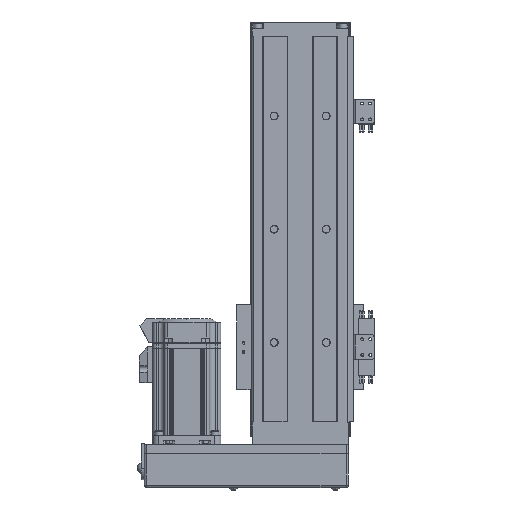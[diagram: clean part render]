
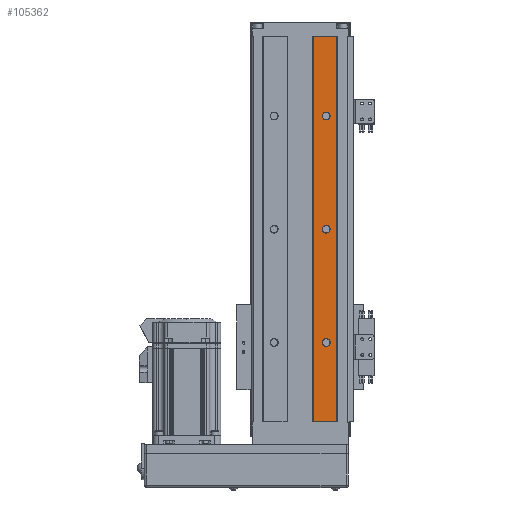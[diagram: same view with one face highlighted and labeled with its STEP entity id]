
A CAD part, front view. The second image highlights one B-rep face of the part: STEP entity #105362.
In plain terms, the highlighted planar face has unit normal (0, -1, 0).
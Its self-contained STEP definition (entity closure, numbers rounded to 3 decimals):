
#1024 = CARTESIAN_POINT ( 'NONE',  ( 23., 0., 170. ) ) ;
#4617 = CARTESIAN_POINT ( 'NONE',  ( 23., 0., 73.5 ) ) ;
#4879 = CARTESIAN_POINT ( 'NONE',  ( 32.5, 0., 0. ) ) ;
#5100 = EDGE_CURVE ( 'NONE', #20776, #85178, #64876, .T. ) ;
#9705 = ORIENTED_EDGE ( 'NONE', *, *, #28110, .T. ) ;
#10612 = CARTESIAN_POINT ( 'NONE',  ( 11.5, 0., 340. ) ) ;
#11366 = CARTESIAN_POINT ( 'NONE',  ( 23., 0., 166.5 ) ) ;
#12077 = DIRECTION ( 'NONE',  ( 0., 1., 0. ) ) ;
#12980 = CARTESIAN_POINT ( 'NONE',  ( 43., 0., 340. ) ) ;
#13453 = PLANE ( 'NONE',  #122352 ) ;
#14081 = EDGE_LOOP ( 'NONE', ( #116109, #68740 ) ) ;
#14997 = AXIS2_PLACEMENT_3D ( 'NONE', #1024, #12077, #66975 ) ;
#16585 = VECTOR ( 'NONE', #43822, 1000. ) ;
#17308 = DIRECTION ( 'NONE',  ( 0., 1., 0. ) ) ;
#19376 = FACE_BOUND ( 'NONE', #69372, .T. ) ;
#19855 = VERTEX_POINT ( 'NONE', #4617 ) ;
#20776 = VERTEX_POINT ( 'NONE', #137611 ) ;
#21133 = DIRECTION ( 'NONE',  ( -1., 0., 0. ) ) ;
#21195 = EDGE_CURVE ( 'NONE', #46774, #49495, #110713, .T. ) ;
#23573 = CARTESIAN_POINT ( 'NONE',  ( 23., 0., 66.5 ) ) ;
#24431 = AXIS2_PLACEMENT_3D ( 'NONE', #94216, #17308, #50520 ) ;
#28110 = EDGE_CURVE ( 'NONE', #19855, #96396, #36945, .T. ) ;
#31743 = CARTESIAN_POINT ( 'NONE',  ( 43., 0., 340. ) ) ;
#31912 = VECTOR ( 'NONE', #45499, 1000. ) ;
#35980 = CARTESIAN_POINT ( 'NONE',  ( 23., 0., 173.5 ) ) ;
#36496 = EDGE_CURVE ( 'NONE', #96396, #19855, #131661, .T. ) ;
#36945 = CIRCLE ( 'NONE', #108590, 3.5 ) ;
#38671 = AXIS2_PLACEMENT_3D ( 'NONE', #96201, #39073, #83398 ) ;
#39073 = DIRECTION ( 'NONE',  ( 0., 1., 0. ) ) ;
#39216 = VECTOR ( 'NONE', #21133, 1000. ) ;
#40966 = CARTESIAN_POINT ( 'NONE',  ( 23., 0., 170. ) ) ;
#43822 = DIRECTION ( 'NONE',  ( 0., 0., 1. ) ) ;
#44221 = ORIENTED_EDGE ( 'NONE', *, *, #21195, .F. ) ;
#45499 = DIRECTION ( 'NONE',  ( -1., 0., 0. ) ) ;
#46774 = VERTEX_POINT ( 'NONE', #135143 ) ;
#49495 = VERTEX_POINT ( 'NONE', #4879 ) ;
#50138 = CARTESIAN_POINT ( 'NONE',  ( 23., 0., 266.5 ) ) ;
#50520 = DIRECTION ( 'NONE',  ( 0., 0., -1. ) ) ;
#56583 = CARTESIAN_POINT ( 'NONE',  ( 23., 0., 270. ) ) ;
#57638 = VERTEX_POINT ( 'NONE', #92944 ) ;
#59416 = CARTESIAN_POINT ( 'NONE',  ( 32.5, 0., 340. ) ) ;
#64172 = AXIS2_PLACEMENT_3D ( 'NONE', #56583, #99766, #89239 ) ;
#64876 = LINE ( 'NONE', #10612, #16585 ) ;
#66884 = LINE ( 'NONE', #31743, #39216 ) ;
#66975 = DIRECTION ( 'NONE',  ( 0., 0., -1. ) ) ;
#68114 = EDGE_CURVE ( 'NONE', #76110, #74493, #109554, .T. ) ;
#68740 = ORIENTED_EDGE ( 'NONE', *, *, #99186, .T. ) ;
#68931 = CIRCLE ( 'NONE', #38671, 3.5 ) ;
#69372 = EDGE_LOOP ( 'NONE', ( #95037, #9705 ) ) ;
#72496 = ORIENTED_EDGE ( 'NONE', *, *, #114119, .F. ) ;
#74493 = VERTEX_POINT ( 'NONE', #35980 ) ;
#76046 = EDGE_LOOP ( 'NONE', ( #117102, #111518 ) ) ;
#76110 = VERTEX_POINT ( 'NONE', #11366 ) ;
#82207 = DIRECTION ( 'NONE',  ( 0., 0., -1. ) ) ;
#83398 = DIRECTION ( 'NONE',  ( 0., 0., -1. ) ) ;
#84152 = CIRCLE ( 'NONE', #139766, 3.5 ) ;
#85083 = EDGE_CURVE ( 'NONE', #122528, #57638, #113233, .T. ) ;
#85178 = VERTEX_POINT ( 'NONE', #87847 ) ;
#87847 = CARTESIAN_POINT ( 'NONE',  ( 11.5, 0., 340. ) ) ;
#89239 = DIRECTION ( 'NONE',  ( 0., 0., -1. ) ) ;
#89389 = ORIENTED_EDGE ( 'NONE', *, *, #134576, .T. ) ;
#89902 = DIRECTION ( 'NONE',  ( 0., 0., -1. ) ) ;
#92828 = EDGE_LOOP ( 'NONE', ( #72496, #44221, #89389, #127495 ) ) ;
#92944 = CARTESIAN_POINT ( 'NONE',  ( 23., 0., 273.5 ) ) ;
#94216 = CARTESIAN_POINT ( 'NONE',  ( 23., 0., 70. ) ) ;
#95037 = ORIENTED_EDGE ( 'NONE', *, *, #36496, .T. ) ;
#95094 = DIRECTION ( 'NONE',  ( 0., 1., 0. ) ) ;
#96201 = CARTESIAN_POINT ( 'NONE',  ( 23., 0., 270. ) ) ;
#96396 = VERTEX_POINT ( 'NONE', #23573 ) ;
#99186 = EDGE_CURVE ( 'NONE', #74493, #76110, #84152, .T. ) ;
#99766 = DIRECTION ( 'NONE',  ( 0., 1., 0. ) ) ;
#100454 = VECTOR ( 'NONE', #126418, 1000. ) ;
#105362 = ADVANCED_FACE ( 'NONE', ( #120760, #117299, #122407, #19376 ), #13453, .T. ) ;
#107513 = LINE ( 'NONE', #125512, #31912 ) ;
#108590 = AXIS2_PLACEMENT_3D ( 'NONE', #115120, #95094, #82207 ) ;
#109554 = CIRCLE ( 'NONE', #14997, 3.5 ) ;
#110713 = LINE ( 'NONE', #59416, #100454 ) ;
#111518 = ORIENTED_EDGE ( 'NONE', *, *, #133996, .T. ) ;
#112765 = DIRECTION ( 'NONE',  ( 0., -1., 0. ) ) ;
#113233 = CIRCLE ( 'NONE', #64172, 3.5 ) ;
#114119 = EDGE_CURVE ( 'NONE', #49495, #20776, #107513, .T. ) ;
#115120 = CARTESIAN_POINT ( 'NONE',  ( 23., 0., 70. ) ) ;
#116109 = ORIENTED_EDGE ( 'NONE', *, *, #68114, .T. ) ;
#117102 = ORIENTED_EDGE ( 'NONE', *, *, #85083, .T. ) ;
#117299 = FACE_BOUND ( 'NONE', #76046, .T. ) ;
#117696 = DIRECTION ( 'NONE',  ( 0., 1., 0. ) ) ;
#120760 = FACE_OUTER_BOUND ( 'NONE', #92828, .T. ) ;
#122352 = AXIS2_PLACEMENT_3D ( 'NONE', #12980, #112765, #89902 ) ;
#122407 = FACE_BOUND ( 'NONE', #14081, .T. ) ;
#122528 = VERTEX_POINT ( 'NONE', #50138 ) ;
#125512 = CARTESIAN_POINT ( 'NONE',  ( 43., 0., 0. ) ) ;
#126418 = DIRECTION ( 'NONE',  ( 0., 0., -1. ) ) ;
#127495 = ORIENTED_EDGE ( 'NONE', *, *, #5100, .F. ) ;
#127756 = DIRECTION ( 'NONE',  ( 0., 0., -1. ) ) ;
#131661 = CIRCLE ( 'NONE', #24431, 3.5 ) ;
#133996 = EDGE_CURVE ( 'NONE', #57638, #122528, #68931, .T. ) ;
#134576 = EDGE_CURVE ( 'NONE', #46774, #85178, #66884, .T. ) ;
#135143 = CARTESIAN_POINT ( 'NONE',  ( 32.5, 0., 340. ) ) ;
#137611 = CARTESIAN_POINT ( 'NONE',  ( 11.5, 0., 0. ) ) ;
#139766 = AXIS2_PLACEMENT_3D ( 'NONE', #40966, #117696, #127756 ) ;
